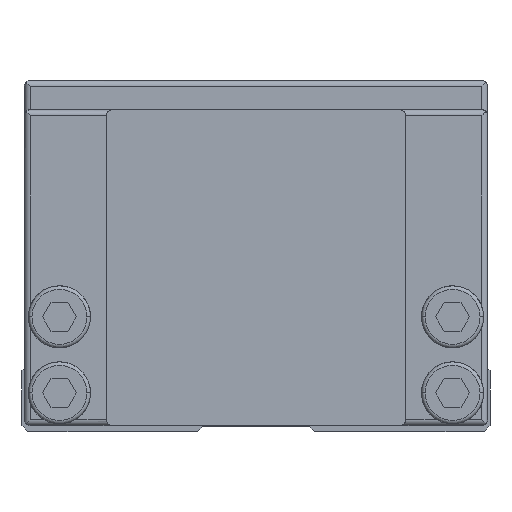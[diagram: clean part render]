
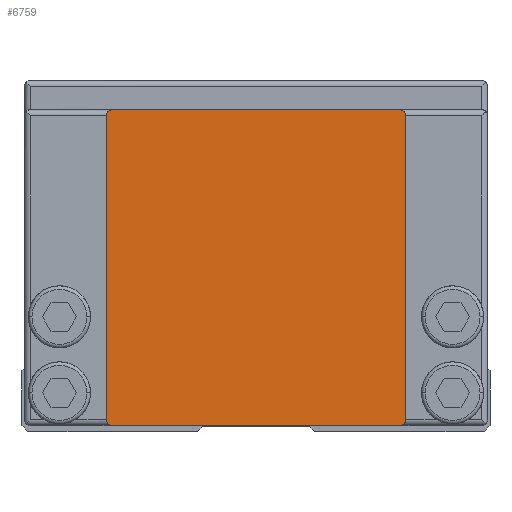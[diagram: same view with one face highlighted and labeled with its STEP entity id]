
A CAD part, front view. The second image highlights one B-rep face of the part: STEP entity #6759.
In plain terms, the highlighted planar face has unit normal (0, -1, 0).
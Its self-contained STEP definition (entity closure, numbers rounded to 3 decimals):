
#5931=VERTEX_POINT('',#17705);
#5953=VERTEX_POINT('',#17729);
#6181=EDGE_CURVE('',#5953,#13919,#17988,.T.);
#6759=ADVANCED_FACE('',(#18623),#18624,.T.);
#8597=EDGE_CURVE('',#10763,#15639,#20673,.T.);
#10763=VERTEX_POINT('',#23084);
#10835=EDGE_CURVE('',#15639,#5953,#23161,.T.);
#12371=VERTEX_POINT('',#24860);
#12549=VERTEX_POINT('',#25054);
#12737=EDGE_CURVE('',#12371,#12549,#25266,.T.);
#13119=EDGE_CURVE('',#13201,#12371,#25696,.T.);
#13201=VERTEX_POINT('',#25782);
#13203=EDGE_CURVE('',#13919,#5931,#25784,.T.);
#13443=EDGE_CURVE('',#5931,#13201,#26051,.T.);
#13919=VERTEX_POINT('',#26570);
#15639=VERTEX_POINT('',#28468);
#15897=EDGE_CURVE('',#12549,#10763,#28762,.T.);
#17705=CARTESIAN_POINT('',(12.3,0.0,0.5));
#17729=CARTESIAN_POINT('',(12.8,0.0,27.0));
#17988=LINE('',#31125,#31126);
#18623=FACE_OUTER_BOUND('',#32122,.T.);
#18624=PLANE('',#32123);
#20673=LINE('',#34919,#34920);
#23084=CARTESIAN_POINT('',(-12.3,0.0,27.5));
#23161=CIRCLE('',#38545,0.5);
#24860=CARTESIAN_POINT('',(-12.8,0.0,1.0));
#25054=CARTESIAN_POINT('',(-12.8,0.0,27.0));
#25266=LINE('',#41576,#41577);
#25696=CIRCLE('',#42214,0.5);
#25782=CARTESIAN_POINT('',(-12.3,0.0,0.5));
#25784=CIRCLE('',#42336,0.5);
#26051=LINE('',#42704,#42705);
#26570=CARTESIAN_POINT('',(12.8,0.0,1.0));
#28468=CARTESIAN_POINT('',(12.3,0.0,27.5));
#28762=CIRCLE('',#46729,0.5);
#31125=CARTESIAN_POINT('',(12.8,0.0,1.0));
#31126=VECTOR('',#50076,1.0);
#32122=EDGE_LOOP('',(#50835,#50836,#50837,#50838,#50839,#50840,#50841,#50842));
#32123=AXIS2_PLACEMENT_3D('',#50843,#50844,#50845);
#34919=CARTESIAN_POINT('',(12.3,0.0,27.5));
#34920=VECTOR('',#53179,1.0);
#38545=AXIS2_PLACEMENT_3D('',#56109,#56110,#56111);
#41576=CARTESIAN_POINT('',(-12.8,0.0,27.0));
#41577=VECTOR('',#58464,1.0);
#42214=AXIS2_PLACEMENT_3D('',#58982,#58983,#58984);
#42336=AXIS2_PLACEMENT_3D('',#59051,#59052,#59053);
#42704=CARTESIAN_POINT('',(-12.3,0.0,0.5));
#42705=VECTOR('',#59369,1.0);
#46729=AXIS2_PLACEMENT_3D('',#62520,#62521,#62522);
#50076=DIRECTION('',(-0.0,0.0,-1.0));
#50835=ORIENTED_EDGE('',*,*,#12737,.F.);
#50836=ORIENTED_EDGE('',*,*,#13119,.F.);
#50837=ORIENTED_EDGE('',*,*,#13443,.F.);
#50838=ORIENTED_EDGE('',*,*,#13203,.F.);
#50839=ORIENTED_EDGE('',*,*,#6181,.F.);
#50840=ORIENTED_EDGE('',*,*,#10835,.F.);
#50841=ORIENTED_EDGE('',*,*,#8597,.F.);
#50842=ORIENTED_EDGE('',*,*,#15897,.F.);
#50843=CARTESIAN_POINT('',(0.,0.0,14.0));
#50844=DIRECTION('',(0.0,-1.0,0.0));
#50845=DIRECTION('',(1.0,0.0,0.0));
#53179=DIRECTION('',(1.0,0.0,0.0));
#56109=CARTESIAN_POINT('',(12.3,0.0,27.0));
#56110=DIRECTION('',(-0.0,1.0,0.0));
#56111=DIRECTION('',(1.0,0.0,0.));
#58464=DIRECTION('',(0.0,0.0,1.0));
#58982=CARTESIAN_POINT('',(-12.3,0.0,1.));
#58983=DIRECTION('',(0.0,1.0,-0.0));
#58984=DIRECTION('',(-1.0,0.0,0.));
#59051=CARTESIAN_POINT('',(12.3,0.0,1.));
#59052=DIRECTION('',(-0.0,1.0,0.0));
#59053=DIRECTION('',(0.0,0.0,-1.0));
#59369=DIRECTION('',(-1.0,0.0,-0.0));
#62520=CARTESIAN_POINT('',(-12.3,0.0,27.0));
#62521=DIRECTION('',(0.0,1.0,-0.0));
#62522=DIRECTION('',(0.,0.0,1.0));
